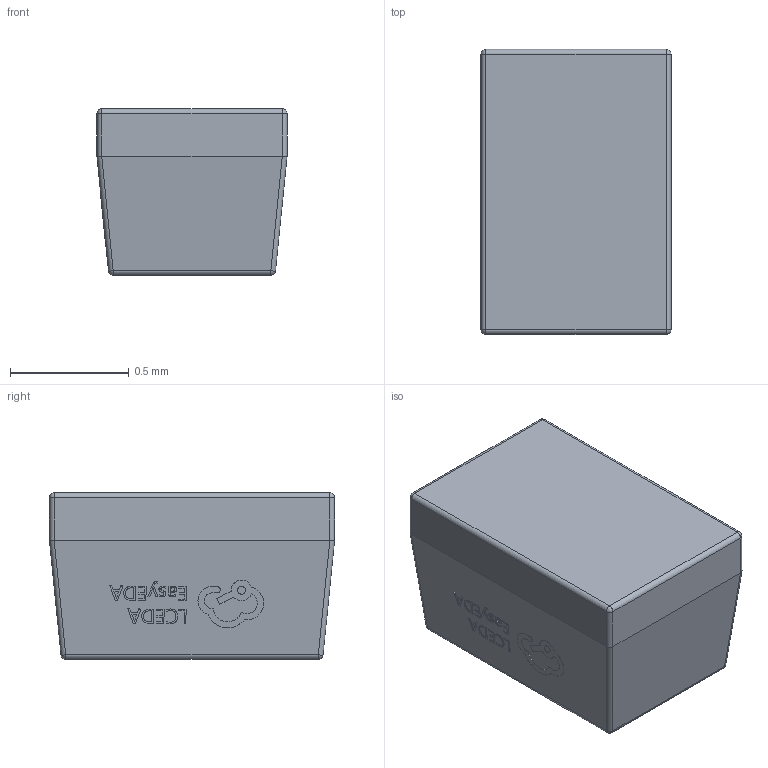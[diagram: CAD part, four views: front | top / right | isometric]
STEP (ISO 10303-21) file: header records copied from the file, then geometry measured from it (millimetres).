
FILE_DESCRIPTION(/* description */ ('STEP AP242 Edition 2','CAx-IF Rec.Pracs.---Representation and Presentation of Product Manufacturing Information (PMI)---4.0---2014-10-13','CAx-IF Rec.Pracs.---3D Tessellated Geometry---0.4---2014-09-14','2;1','CAx-IF Rec.Pracs.---User Defined Attributes---1.5---2016-08-15'),/* implementation_level */ '2;1');
FILE_NAME(/* name */ 'Assembly 1 - SOD-523_L1.2-W0.8-LS1.6-BI~SOD-523_L1.2-W0.8-LS1.6-BI~nxQB_1 (1)',/* time_stamp */ '2026-04-02T09:55:21Z',/* author */ (''),/* organization */ (''),/* preprocessor_version */ 'ST-DEVELOPER v20',/* originating_system */ 'ONSHAPE BY PTC INC, 1.212',/* authorisation */ ' ');
FILE_SCHEMA (('AP242_MANAGED_MODEL_BASED_3D_ENGINEERING_MIM_LF { 1 0 10303 442 3 1 4 }'));
Length unit declared in the file: metre
Products named in the file (1): SOD-523_L1.2-W0.8-LS1.6-BI~SOD-523_L1.2-W0.8-LS1.6-BI~nxQB_1
Bounding box: 0.8 x 1.2 x 0.7 mm (x, y, z)
Volume: 0.6 mm3; surface area: 4.4 mm2
Topology: 1 solids, 1 shells, 258 faces, 691 edges, 450 vertices
Faces by surface type: plane 136, bspline 96, cylinder 18, sphere 8
Entity records: 10267 total; most frequent: CARTESIAN_POINT 2598, ORIENTED_EDGE 1374, DIRECTION 891, EDGE_CURVE 687, LINE 461, VECTOR 461, VERTEX_POINT 450, EDGE_LOOP 277
